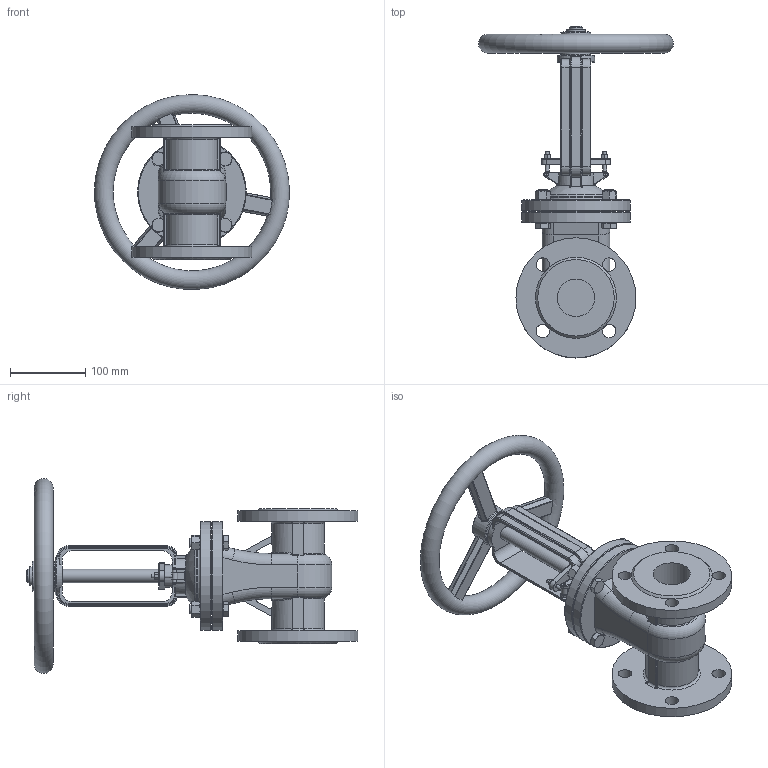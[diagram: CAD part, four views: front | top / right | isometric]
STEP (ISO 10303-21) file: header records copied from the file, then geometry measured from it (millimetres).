
FILE_DESCRIPTION(('STEP AP242'), '1');
FILE_NAME('GVWR2626M-2W-F-S Çàäâèæêà êëèíîâàÿ ñ âûäâèæíûì øòîêîì DN.ru Äó50 Ðó16', '', ('UNSPECIFIED'), ('UNSPECIFIED'), 'C3D Converter', 'C3D Toolkit', '');
FILE_SCHEMA(('AP242_MANAGED_MODEL_BASED_3D_ENGINEERING_MIM_LF { 1 0 10303 442 1 1 4 }'));
Length unit declared in the file: millimetre
Products named in the file (1): GVWR2626M-2W-F-S
Bounding box: 259.83 x 442.5 x 259.73 mm (x, y, z)
Volume: 2742828.7 mm3; surface area: 363783.9 mm2
Topology: 1 solids, 1 shells, 770 faces, 1907 edges, 1146 vertices
Faces by surface type: plane 284, cylinder 194, cone 109, bspline 101, torus 81, sphere 1
Full cylindrical faces by diameter (mm): 3 x4, 5 x4, 8 x2, 12 x8, 18 x14, 20 x1, 25 x1, 30 x1, 40 x2, 50 x4, 90 x2, 145 x2, 160 x2
Entity records: 46922 total; most frequent: CARTESIAN_POINT 23774, ORIENTED_EDGE 3644, DIRECTION 3206, EDGE_CURVE 1822, AXIS2_PLACEMENT_3D 1305, VERTEX_POINT 1141, EDGE_LOOP 909, FACE_BOUND 834
